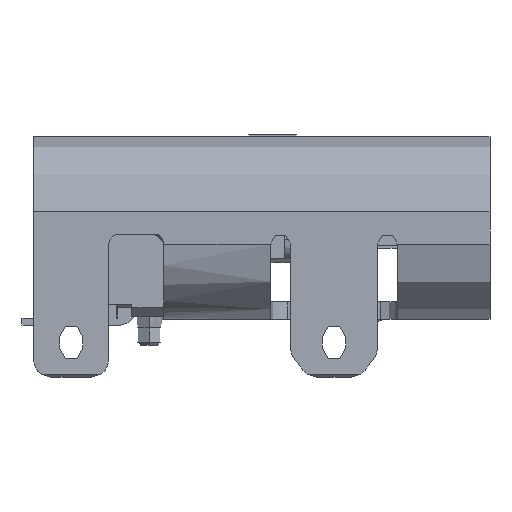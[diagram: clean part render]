
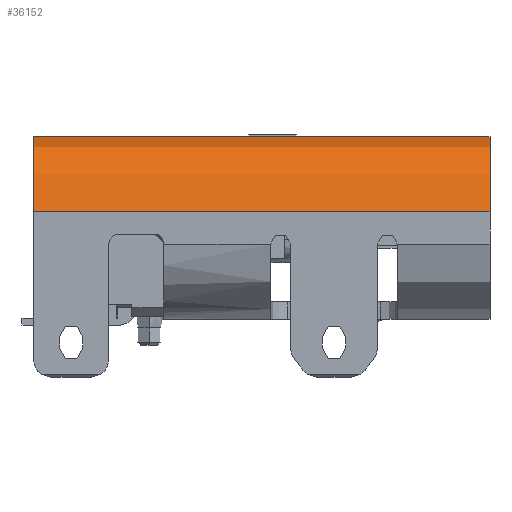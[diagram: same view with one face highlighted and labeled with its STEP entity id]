
A CAD part, left-side view. The second image highlights one B-rep face of the part: STEP entity #36152.
In plain terms, the highlighted cylindrical face has radius 1.3 mm (diameter 2.6 mm), a partial arc.
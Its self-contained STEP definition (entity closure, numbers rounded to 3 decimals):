
#152 = EDGE_CURVE ( 'NONE', #30493, #43925, #37714, .T. ) ;
#1288 = VERTEX_POINT ( 'NONE', #15208 ) ;
#1757 = EDGE_CURVE ( 'NONE', #39801, #43925, #26281, .T. ) ;
#3175 = DIRECTION ( 'NONE',  ( 0., 1., 0. ) ) ;
#4839 = DIRECTION ( 'NONE',  ( 0., 1., 0. ) ) ;
#7229 = CARTESIAN_POINT ( 'NONE',  ( -3.17, -6.55, 0.28 ) ) ;
#8640 = CYLINDRICAL_SURFACE ( 'NONE', #48746, 1.3 ) ;
#10643 = CARTESIAN_POINT ( 'NONE',  ( -3.17, 1.35, 0.28 ) ) ;
#11943 = EDGE_LOOP ( 'NONE', ( #39113, #22087, #25686, #23978 ) ) ;
#14398 = CARTESIAN_POINT ( 'NONE',  ( -4.47, -6.55, 0.28 ) ) ;
#15208 = CARTESIAN_POINT ( 'NONE',  ( -3.17, -6.55, 1.58 ) ) ;
#17273 = VECTOR ( 'NONE', #46666, 1000. ) ;
#18691 = DIRECTION ( 'NONE',  ( 0., 1., 0. ) ) ;
#19719 = VECTOR ( 'NONE', #18691, 1000. ) ;
#21328 = AXIS2_PLACEMENT_3D ( 'NONE', #7229, #3175, #31711 ) ;
#22087 = ORIENTED_EDGE ( 'NONE', *, *, #152, .T. ) ;
#22890 = CARTESIAN_POINT ( 'NONE',  ( -3.17, 1.35, 1.58 ) ) ;
#23978 = ORIENTED_EDGE ( 'NONE', *, *, #40962, .T. ) ;
#24076 = CARTESIAN_POINT ( 'NONE',  ( -3.17, -10.699, 0.28 ) ) ;
#24325 = DIRECTION ( 'NONE',  ( -1., 0., 0. ) ) ;
#25686 = ORIENTED_EDGE ( 'NONE', *, *, #1757, .F. ) ;
#26281 = LINE ( 'NONE', #14398, #19719 ) ;
#30493 = VERTEX_POINT ( 'NONE', #22890 ) ;
#31711 = DIRECTION ( 'NONE',  ( -1., 0., 0. ) ) ;
#32648 = CIRCLE ( 'NONE', #21328, 1.3 ) ;
#35307 = AXIS2_PLACEMENT_3D ( 'NONE', #10643, #49645, #37982 ) ;
#36152 = ADVANCED_FACE ( 'NONE', ( #43331 ), #8640, .T. ) ;
#37282 = CARTESIAN_POINT ( 'NONE',  ( -4.47, -6.55, 0.28 ) ) ;
#37714 = CIRCLE ( 'NONE', #35307, 1.3 ) ;
#37982 = DIRECTION ( 'NONE',  ( 0., 0., 1. ) ) ;
#39113 = ORIENTED_EDGE ( 'NONE', *, *, #42249, .F. ) ;
#39801 = VERTEX_POINT ( 'NONE', #37282 ) ;
#40962 = EDGE_CURVE ( 'NONE', #39801, #1288, #32648, .T. ) ;
#41857 = CARTESIAN_POINT ( 'NONE',  ( -3.17, 1.35, 1.58 ) ) ;
#42249 = EDGE_CURVE ( 'NONE', #30493, #1288, #45915, .T. ) ;
#43331 = FACE_OUTER_BOUND ( 'NONE', #11943, .T. ) ;
#43925 = VERTEX_POINT ( 'NONE', #46705 ) ;
#45915 = LINE ( 'NONE', #41857, #17273 ) ;
#46666 = DIRECTION ( 'NONE',  ( 0., -1., 0. ) ) ;
#46705 = CARTESIAN_POINT ( 'NONE',  ( -4.47, 1.35, 0.28 ) ) ;
#48746 = AXIS2_PLACEMENT_3D ( 'NONE', #24076, #4839, #24325 ) ;
#49645 = DIRECTION ( 'NONE',  ( 0., -1., 0. ) ) ;
